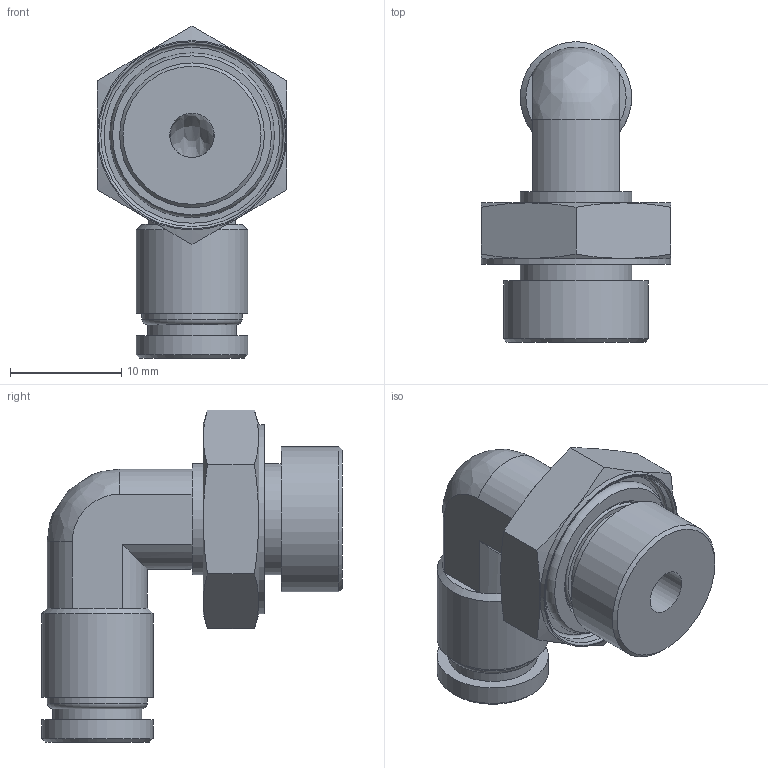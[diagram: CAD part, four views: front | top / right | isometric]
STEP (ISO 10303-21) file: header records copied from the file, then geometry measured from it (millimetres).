
FILE_DESCRIPTION(/* description */ (''),/* implementation_level */ '2;1');
FILE_NAME(/* name */ 'LXH28 0006 B2.stp',/* time_stamp */ '2026-04-30T12:58:06+02:00',/* author */ ('freju'),/* organization */ (''),/* preprocessor_version */ 'ST-DEVELOPER v20.1',/* originating_system */ 'Autodesk Inventor 2026',/* authorisation */ '');
FILE_SCHEMA (('AUTOMOTIVE_DESIGN { 1 0 10303 214 3 1 1 }'));
Length unit declared in the file: millimetre
Products named in the file (4): LXH28 0006 B2; LXH28 0006 B2_1; O-Ring; ISO 3601-1 - A 0112 G
Assembly tree (3 placements, depth 3):
  LXH28 0006 B2
    LXH28 0006 B2_1
    O-Ring
      ISO 3601-1 - A 0112 G
Bounding box: 17 x 27 x 29.82 mm (x, y, z)
Volume: 3294.3 mm3; surface area: 2979 mm2
Topology: 2 solids, 2 shells, 64 faces, 136 edges, 83 vertices
Faces by surface type: plane 23, cylinder 17, cone 15, torus 7, bspline 2
Full cylindrical faces by diameter (mm): 4 x2, 6 x1, 8 x1, 9 x1, 10 x4, 11.2 x1, 13 x1, 16.4 x1, 17 x1
Entity records: 1880 total; most frequent: CARTESIAN_POINT 376, DIRECTION 324, ORIENTED_EDGE 268, AXIS2_PLACEMENT_3D 145, EDGE_CURVE 134, VERTEX_POINT 83, EDGE_LOOP 77, CIRCLE 75
